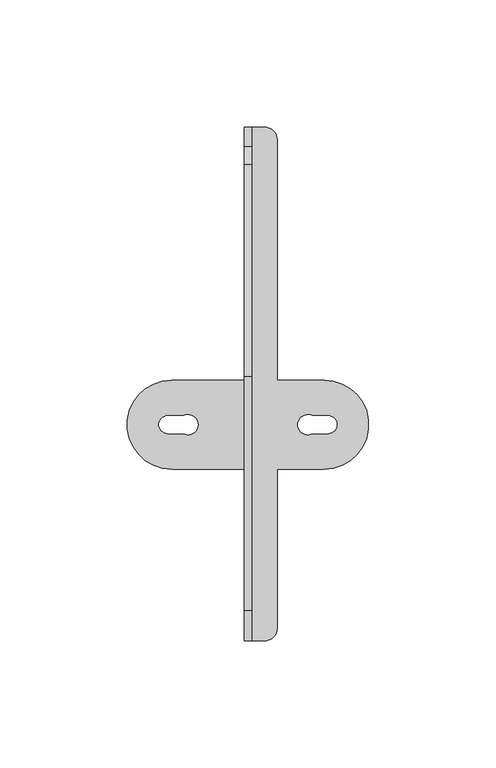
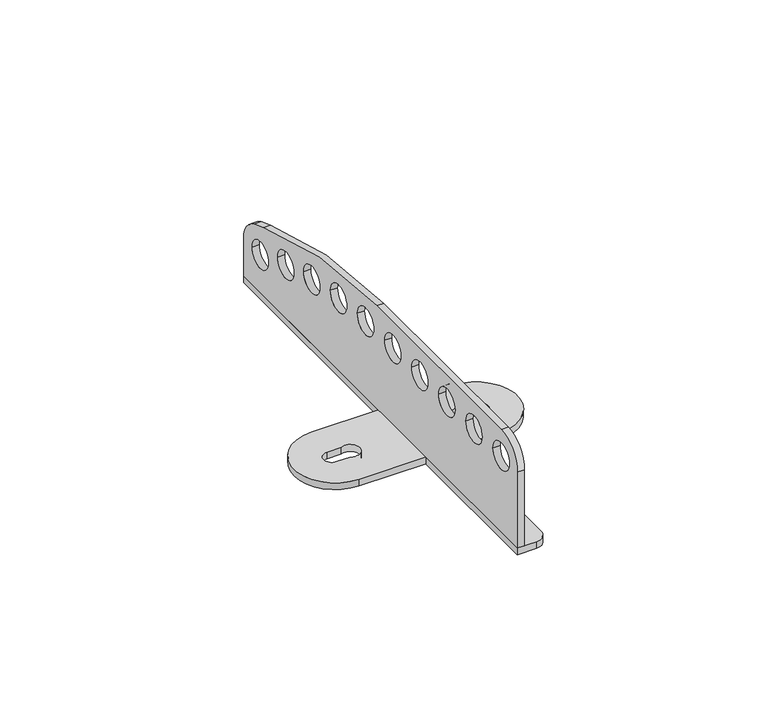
"""IFC4 building model written with IfcOpenShell, lengths in millimetres: proxy geometry, d&b E8 l E12 Flying Adapter : E8 l E12 Flying Adapter."""

from ifc_helpers import new_model, si_unit, point, frame, frame_2d, origin, origin_with_axes, place, context, project, spatial, polyline, circle_curve, trimmed, segment, composite_curve, outline, extrude, source, transform, mapped, element, save


def communication_devices_97c60789(model_context):
    return source(origin(), model_context, "Body", "SweptSolid", [
        extrude(outline(composite_curve([segment(polyline([(117.0, 3.0), (-85.0, 3.0), (-85.0, 37.2328622)]), True, "CONTINUOUS"), segment(trimmed(circle_curve(frame_2d((-73.0, 37.2328622)), 12.0), [point((-85.0, 37.2328622))], [point((-73.0, 49.2328622))], False, "CARTESIAN"), True, "CONTINUOUS"), segment(polyline([(-73.0, 49.2328622), (18.7744826, 49.2328622)]), True, "CONTINUOUS"), segment(trimmed(circle_curve(frame_2d((18.7744826, -184.1479786)), 233.3808408), [point((18.7744826, 49.2328622))], [point((102.410696, 33.7318063))], False, "CARTESIAN"), True, "CONTINUOUS"), segment(polyline([(102.410696, 33.7318063), (109.3004154, 31.0870908)]), True, "CONTINUOUS"), segment(trimmed(circle_curve(frame_2d((105.0, 19.8841257)), 12.0), [point((109.3004154, 31.0870908))], [point((117.0, 19.8841257))], False, "CARTESIAN"), True, "CONTINUOUS"), segment(polyline([(117.0, 19.8841257), (117.0, 3.0)]), True, "CONTINUOUS")], self_intersect=False), holes=[composite_curve([segment(trimmed(circle_curve(frame_2d((-13.0, 37.2328622)), 6.0), [point((-19.0, 37.2328622))], [point((-7.0, 37.2328622))], True, "CARTESIAN"), True, "CONTINUOUS"), segment(trimmed(circle_curve(frame_2d((-13.0, 37.2328622)), 6.0), [point((-7.0, 37.2328622))], [point((-19.0, 37.2328622))], True, "CARTESIAN"), True, "CONTINUOUS")], self_intersect=False), composite_curve([segment(trimmed(circle_curve(frame_2d((-33.0, 37.2328622)), 6.0), [point((-39.0, 37.2328622))], [point((-27.0, 37.2328622))], True, "CARTESIAN"), True, "CONTINUOUS"), segment(trimmed(circle_curve(frame_2d((-33.0, 37.2328622)), 6.0), [point((-27.0, 37.2328622))], [point((-39.0, 37.2328622))], True, "CARTESIAN"), True, "CONTINUOUS")], self_intersect=False), composite_curve([segment(trimmed(circle_curve(frame_2d((-53.0, 37.2328622)), 6.0), [point((-59.0, 37.2328622))], [point((-47.0, 37.2328622))], True, "CARTESIAN"), True, "CONTINUOUS"), segment(trimmed(circle_curve(frame_2d((-53.0, 37.2328622)), 6.0), [point((-47.0, 37.2328622))], [point((-59.0, 37.2328622))], True, "CARTESIAN"), True, "CONTINUOUS")], self_intersect=False), composite_curve([segment(trimmed(circle_curve(frame_2d((-73.0, 37.2328622)), 6.0), [point((-79.0, 37.2328622))], [point((-67.0, 37.2328622))], True, "CARTESIAN"), True, "CONTINUOUS"), segment(trimmed(circle_curve(frame_2d((-73.0, 37.2328622)), 6.0), [point((-67.0, 37.2328622))], [point((-79.0, 37.2328622))], True, "CARTESIAN"), True, "CONTINUOUS")], self_intersect=False), composite_curve([segment(trimmed(circle_curve(frame_2d((7.0, 37.2328622)), 6.0), [point((1.0, 37.2328622))], [point((13.0, 37.2328622))], True, "CARTESIAN"), True, "CONTINUOUS"), segment(trimmed(circle_curve(frame_2d((7.0, 37.2328622)), 6.0), [point((13.0, 37.2328622))], [point((1.0, 37.2328622))], True, "CARTESIAN"), True, "CONTINUOUS")], self_intersect=False), composite_curve([segment(trimmed(circle_curve(frame_2d((27.0, 37.2328622)), 6.0), [point((21.0, 37.2328622))], [point((33.0, 37.2328622))], True, "CARTESIAN"), True, "CONTINUOUS"), segment(trimmed(circle_curve(frame_2d((27.0, 37.2328622)), 6.0), [point((33.0, 37.2328622))], [point((21.0, 37.2328622))], True, "CARTESIAN"), True, "CONTINUOUS")], self_intersect=False), composite_curve([segment(trimmed(circle_curve(frame_2d((46.923894, 35.4897473)), 6.0), [point((40.923894, 35.4897473))], [point((52.923894, 35.4897473))], True, "CARTESIAN"), True, "CONTINUOUS"), segment(trimmed(circle_curve(frame_2d((46.923894, 35.4897473)), 6.0), [point((52.923894, 35.4897473))], [point((40.923894, 35.4897473))], True, "CARTESIAN"), True, "CONTINUOUS")], self_intersect=False), composite_curve([segment(trimmed(circle_curve(frame_2d((66.620049, 32.0167838)), 6.0), [point((60.620049, 32.0167838))], [point((72.620049, 32.0167838))], True, "CARTESIAN"), True, "CONTINUOUS"), segment(trimmed(circle_curve(frame_2d((66.620049, 32.0167838)), 6.0), [point((72.620049, 32.0167838))], [point((60.620049, 32.0167838))], True, "CARTESIAN"), True, "CONTINUOUS")], self_intersect=False), composite_curve([segment(trimmed(circle_curve(frame_2d((85.9385655, 26.8404029)), 6.0), [point((79.9385655, 26.8404029))], [point((91.9385655, 26.8404029))], True, "CARTESIAN"), True, "CONTINUOUS"), segment(trimmed(circle_curve(frame_2d((85.9385655, 26.8404029)), 6.0), [point((91.9385655, 26.8404029))], [point((79.9385655, 26.8404029))], True, "CARTESIAN"), True, "CONTINUOUS")], self_intersect=False), composite_curve([segment(trimmed(circle_curve(frame_2d((104.732418, 20.0)), 6.0), [point((98.732418, 20.0))], [point((110.732418, 20.0))], True, "CARTESIAN"), True, "CONTINUOUS"), segment(trimmed(circle_curve(frame_2d((104.732418, 20.0)), 6.0), [point((110.732418, 20.0))], [point((98.732418, 20.0))], True, "CARTESIAN"), True, "CONTINUOUS")], self_intersect=False)]), frame((-1.5, 0.0, 0.0), z_axis=(1.0, 0.0, 0.0), x_axis=(0.0, 1.0, 0.0)), (0.0, 0.0, 1.0), 3.0),
        extrude(outline(composite_curve([segment(polyline([(-30.0, 17.5), (-1.5, 17.5), (-1.5, 117.0), (6.5, 117.0)]), True, "CONTINUOUS"), segment(trimmed(circle_curve(frame_2d((6.5, 112.0)), 5.0), [point((6.5, 117.0))], [point((11.5, 112.0))], False, "CARTESIAN"), True, "CONTINUOUS"), segment(polyline([(11.5, 112.0), (11.5, 17.5), (30.0, 17.5)]), True, "CONTINUOUS"), segment(trimmed(circle_curve(frame_2d((30.0, 0.0)), 17.5), [point((30.0, 17.5))], [point((30.0, -17.5))], False, "CARTESIAN"), True, "CONTINUOUS"), segment(polyline([(30.0, -17.5), (11.5, -17.5), (11.5, -80.0)]), True, "CONTINUOUS"), segment(trimmed(circle_curve(frame_2d((6.5, -80.0)), 5.0), [point((11.5, -80.0))], [point((6.5, -85.0))], False, "CARTESIAN"), True, "CONTINUOUS"), segment(polyline([(6.5, -85.0), (-1.5, -85.0), (-1.5, -17.5), (-30.0, -17.5)]), True, "CONTINUOUS"), segment(trimmed(circle_curve(frame_2d((-30.0, 0.0)), 17.5), [point((-30.0, -17.5))], [point((-30.0, 17.5))], False, "CARTESIAN"), True, "CONTINUOUS")], self_intersect=False), holes=[composite_curve([segment(polyline([(-25.4364917, 3.5), (-31.5, 3.5)]), True, "CONTINUOUS"), segment(trimmed(circle_curve(frame_2d((-31.5, 0.0)), 3.5), [point((-31.5, 3.5))], [point((-31.5, -3.5))], True, "CARTESIAN"), True, "CONTINUOUS"), segment(polyline([(-31.5, -3.5), (-25.4364917, -3.5)]), True, "CONTINUOUS"), segment(trimmed(circle_curve(frame_2d((-23.54371, 0.0)), 3.9790228), [point((-25.4364917, -3.5))], [point((-25.4364917, 3.5))], True, "CARTESIAN"), True, "CONTINUOUS")], self_intersect=False), composite_curve([segment(trimmed(circle_curve(frame_2d((23.54371, 0.0)), 3.9790228), [point((25.4364917, 3.5))], [point((25.4364917, -3.5))], True, "CARTESIAN"), True, "CONTINUOUS"), segment(polyline([(25.4364917, -3.5), (31.5, -3.5)]), True, "CONTINUOUS"), segment(trimmed(circle_curve(frame_2d((31.5, 0.0)), 3.5), [point((31.5, -3.5))], [point((31.5, 3.5))], True, "CARTESIAN"), True, "CONTINUOUS"), segment(polyline([(31.5, 3.5), (25.4364917, 3.5)]), True, "CONTINUOUS")], self_intersect=False)]), origin_with_axes(), (0.0, 0.0, 1.0), 3.0),
    ])


if __name__ == "__main__":
    model = new_model("IFC4")
    model_context = context("Model", 3, world=origin())
    ifc_project = project(units=[si_unit("LENGTHUNIT", "METRE", prefix="MILLI")], contexts=[model_context])
    site = spatial("IfcSite", under=ifc_project)
    building = spatial("IfcBuilding", under=site)
    placement = place(None, origin())
    communication_devices_shape = communication_devices_97c60789(model_context)
    element("IfcBuildingElementProxy", 1, Name="d&b E8 l E12 Flying Adapter : E8 l E12 Flying Adapter", ObjectType="d&b E8 l E12 Flying Adapter : E8 l E12 Flying Adapter", at=placement, inside=building, context=model_context, shape_type="MappedRepresentation", body=[
        mapped(communication_devices_shape, transform((0.0, 0.0, 0.0), x_axis=(1.0, 0.0, 0.0), y_axis=(0.0, 1.0, 0.0), z_axis=(0.0, 0.0, 1.0))),
    ])
    save(model, "model.ifc")
